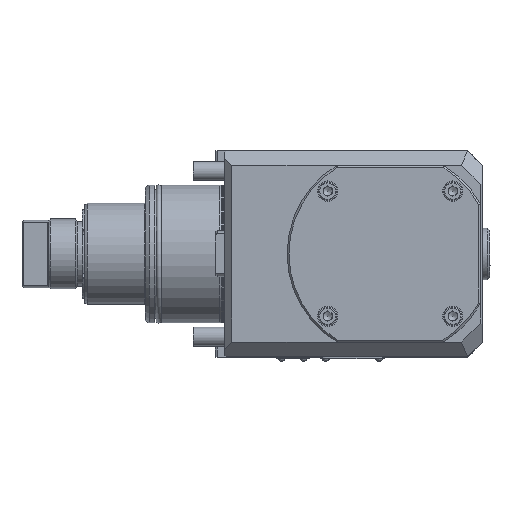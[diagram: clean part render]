
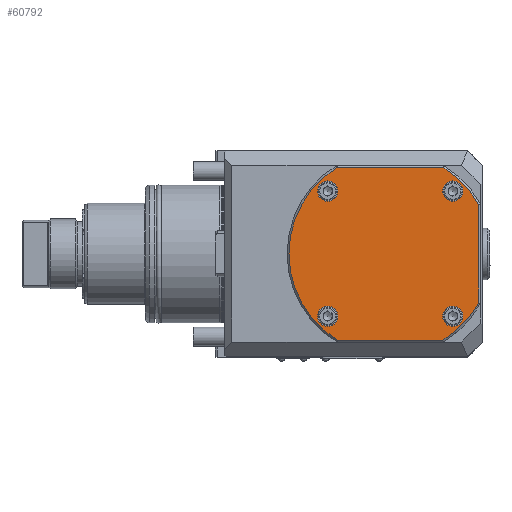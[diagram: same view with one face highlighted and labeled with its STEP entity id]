
A CAD part, top view. The second image highlights one B-rep face of the part: STEP entity #60792.
In plain terms, the highlighted planar face has unit normal (0, 0, 1).
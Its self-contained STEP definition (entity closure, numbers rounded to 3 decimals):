
#26317=CIRCLE('',#58024,55.);
#26318=CIRCLE('',#58028,55.);
#26319=CIRCLE('',#58029,55.);
#26320=CIRCLE('',#58030,5.5);
#26321=CIRCLE('',#58031,5.5);
#26322=CIRCLE('',#58032,5.5);
#26323=CIRCLE('',#58033,5.5);
#27474=ORIENTED_EDGE('',*,*,#37225,.T.);
#27475=ORIENTED_EDGE('',*,*,#37226,.F.);
#27476=ORIENTED_EDGE('',*,*,#37222,.T.);
#27477=ORIENTED_EDGE('',*,*,#37227,.F.);
#27478=ORIENTED_EDGE('',*,*,#37228,.T.);
#27479=ORIENTED_EDGE('',*,*,#37229,.F.);
#27480=ORIENTED_EDGE('',*,*,#37230,.F.);
#27481=ORIENTED_EDGE('',*,*,#37231,.F.);
#27482=ORIENTED_EDGE('',*,*,#37232,.F.);
#27483=ORIENTED_EDGE('',*,*,#37233,.F.);
#32623=VECTOR('',#42829,1.);
#32624=VECTOR('',#42830,1.);
#32625=VECTOR('',#42833,1.);
#34031=LINE('',#48391,#32623);
#34032=LINE('',#48393,#32624);
#34033=LINE('',#48396,#32625);
#35440=VERTEX_POINT('',#48382);
#35441=VERTEX_POINT('',#48383);
#35442=VERTEX_POINT('',#48388);
#35443=VERTEX_POINT('',#48389);
#35444=VERTEX_POINT('',#48392);
#35445=VERTEX_POINT('',#48394);
#35446=VERTEX_POINT('',#48397);
#35447=VERTEX_POINT('',#48399);
#35448=VERTEX_POINT('',#48401);
#35449=VERTEX_POINT('',#48403);
#37222=EDGE_CURVE('',#35440,#35441,#26317,.T.);
#37225=EDGE_CURVE('',#35442,#35443,#26318,.T.);
#37226=EDGE_CURVE('',#35440,#35443,#34031,.T.);
#37227=EDGE_CURVE('',#35444,#35441,#34032,.T.);
#37228=EDGE_CURVE('',#35444,#35445,#26319,.T.);
#37229=EDGE_CURVE('',#35442,#35445,#34033,.T.);
#37230=EDGE_CURVE('',#35446,#35446,#26320,.T.);
#37231=EDGE_CURVE('',#35447,#35447,#26321,.T.);
#37232=EDGE_CURVE('',#35448,#35448,#26322,.T.);
#37233=EDGE_CURVE('',#35449,#35449,#26323,.T.);
#39796=EDGE_LOOP('',(#27474,#27475,#27476,#27477,#27478,#27479));
#39797=EDGE_LOOP('',(#27480));
#39798=EDGE_LOOP('',(#27481));
#39799=EDGE_LOOP('',(#27482));
#39800=EDGE_LOOP('',(#27483));
#41292=FACE_BOUND('',#39796,.T.);
#41293=FACE_BOUND('',#39797,.T.);
#41294=FACE_BOUND('',#39798,.T.);
#41295=FACE_BOUND('',#39799,.T.);
#41296=FACE_BOUND('',#39800,.T.);
#42819=DIRECTION('',(0.,0.,1.));
#42820=DIRECTION('',(-55.,0.,0.));
#42825=DIRECTION('',(0.,0.,1.));
#42826=DIRECTION('',(0.,-1.,0.));
#42827=DIRECTION('',(0.,0.,1.));
#42828=DIRECTION('',(-55.,0.,0.));
#42829=DIRECTION('',(0.,-53.703,0.));
#42830=DIRECTION('',(57.131,0.,0.));
#42831=DIRECTION('',(0.,0.,1.));
#42832=DIRECTION('',(-55.,0.,0.));
#42833=DIRECTION('',(-57.131,0.,0.));
#42834=DIRECTION('',(0.,0.,1.));
#42835=DIRECTION('',(0.,5.5,0.));
#42836=DIRECTION('',(0.,0.,1.));
#42837=DIRECTION('',(0.,5.5,0.));
#42838=DIRECTION('',(0.,0.,1.));
#42839=DIRECTION('',(0.,5.5,0.));
#42840=DIRECTION('',(0.,0.,1.));
#42841=DIRECTION('',(0.,5.5,0.));
#48382=CARTESIAN_POINT('',(137.95,26.852,87.));
#48383=CARTESIAN_POINT('',(118.516,47.001,87.));
#48384=CARTESIAN_POINT('',(89.95,0.001,87.));
#48387=CARTESIAN_POINT('',(63.099,48.001,87.));
#48388=CARTESIAN_POINT('',(118.516,-46.999,87.));
#48389=CARTESIAN_POINT('',(137.95,-26.851,87.));
#48390=CARTESIAN_POINT('',(89.95,0.001,87.));
#48391=CARTESIAN_POINT('',(137.95,26.852,87.));
#48392=CARTESIAN_POINT('',(61.385,47.001,87.));
#48393=CARTESIAN_POINT('',(61.385,47.001,87.));
#48394=CARTESIAN_POINT('',(61.385,-46.999,87.));
#48395=CARTESIAN_POINT('',(89.95,0.001,87.));
#48396=CARTESIAN_POINT('',(118.516,-46.999,87.));
#48397=CARTESIAN_POINT('',(123.95,39.501,87.));
#48398=CARTESIAN_POINT('',(123.95,34.001,87.));
#48399=CARTESIAN_POINT('',(55.95,39.501,87.));
#48400=CARTESIAN_POINT('',(55.95,34.001,87.));
#48401=CARTESIAN_POINT('',(123.95,-28.499,87.));
#48402=CARTESIAN_POINT('',(123.95,-33.999,87.));
#48403=CARTESIAN_POINT('',(55.95,-28.499,87.));
#48404=CARTESIAN_POINT('',(55.95,-33.999,87.));
#58024=AXIS2_PLACEMENT_3D('',#48384,#42819,#42820);
#58027=AXIS2_PLACEMENT_3D('',#48387,#42825,#42826);
#58028=AXIS2_PLACEMENT_3D('',#48390,#42827,#42828);
#58029=AXIS2_PLACEMENT_3D('',#48395,#42831,#42832);
#58030=AXIS2_PLACEMENT_3D('',#48398,#42834,#42835);
#58031=AXIS2_PLACEMENT_3D('',#48400,#42836,#42837);
#58032=AXIS2_PLACEMENT_3D('',#48402,#42838,#42839);
#58033=AXIS2_PLACEMENT_3D('',#48404,#42840,#42841);
#60097=PLANE('',#58027);
#60792=ADVANCED_FACE('',(#41292,#41293,#41294,#41295,#41296),#60097,.T.);
